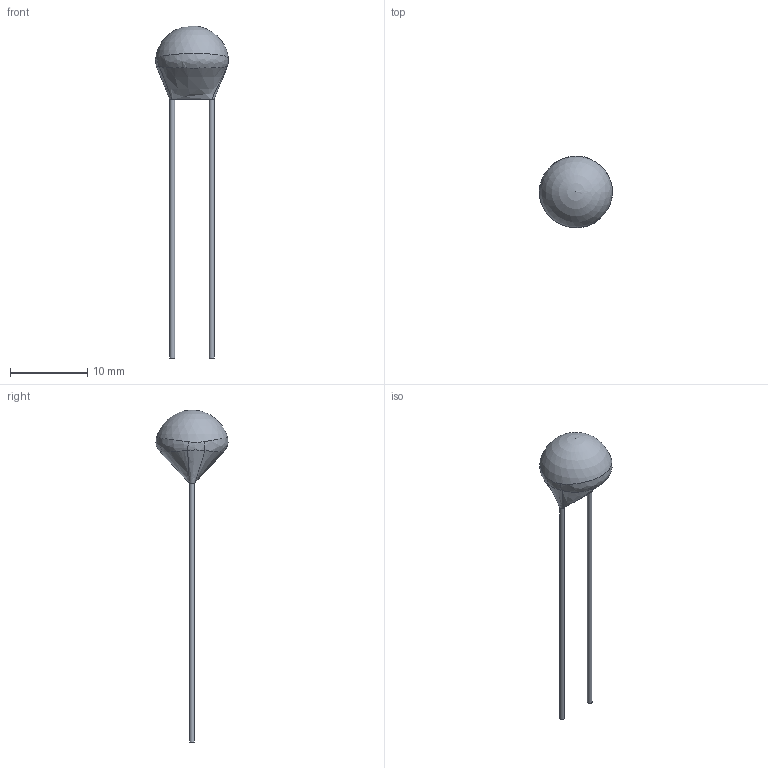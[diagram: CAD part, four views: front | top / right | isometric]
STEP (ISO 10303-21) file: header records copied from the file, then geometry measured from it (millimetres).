
FILE_DESCRIPTION(/* description */ (''),/* implementation_level */ '2;1');
FILE_NAME(/* name */ '\\Snap1\dwgs\Customer 3D Models\553\553-3635.stp',/* time_stamp */ '2016-12-22T16:09:38+00:00',/* author */ ('P. Karlsons'),/* organization */ (''),/* preprocessor_version */ 'ST-DEVELOPER v15.2',/* originating_system */ 'Autodesk Inventor 2014',/* authorisation */ '');
FILE_SCHEMA (('CONFIG_CONTROL_DESIGN'));
Length unit declared in the file: millimetre
Products named in the file (1): 553-3635
Bounding box: 9.43 x 9.29 x 42.85 mm (x, y, z)
Volume: 393.5 mm3; surface area: 394.7 mm2
Topology: 1 solids, 1 shells, 14 faces, 31 edges, 18 vertices
Faces by surface type: bspline 8, plane 3, cylinder 2, sphere 1
Full cylindrical faces by diameter (mm): 0.64 x2
Entity records: 848 total; most frequent: CARTESIAN_POINT 579, ORIENTED_EDGE 50, DIRECTION 38, EDGE_CURVE 25, AXIS2_PLACEMENT_3D 18, EDGE_LOOP 16, VERTEX_POINT 15, FACE_OUTER_BOUND 14
